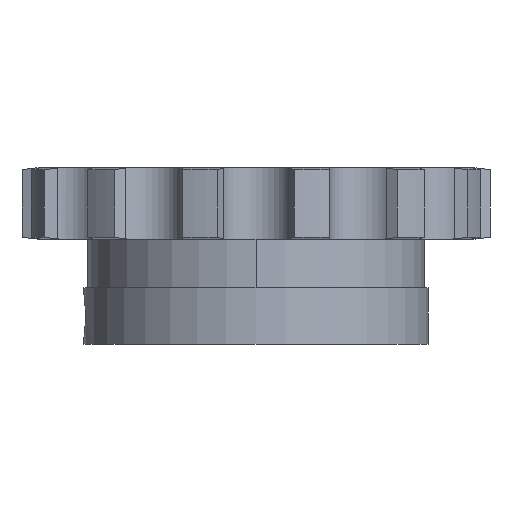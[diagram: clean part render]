
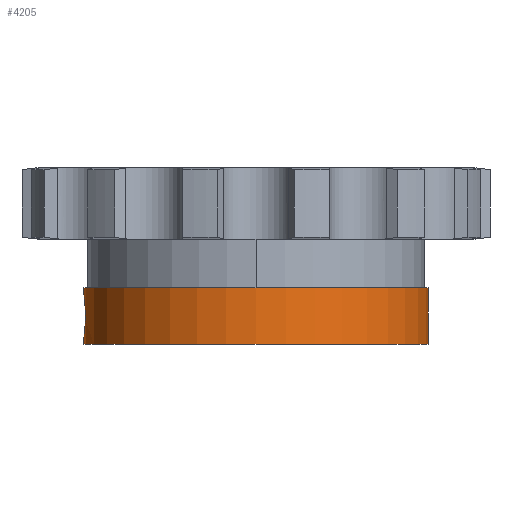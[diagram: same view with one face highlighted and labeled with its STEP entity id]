
A CAD part, front view. The second image highlights one B-rep face of the part: STEP entity #4205.
In plain terms, the highlighted cylindrical face has radius 39 mm (diameter 78 mm), a partial arc.
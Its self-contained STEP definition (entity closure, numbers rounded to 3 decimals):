
#1007=CARTESIAN_POINT('',(-39.,0.,
-20.5));
#1031=DIRECTION('',(0.,0.,1.));
#1032=VECTOR('',#1031,12.8);
#1033=CARTESIAN_POINT('',(39.,0.,-31.9));
#1034=LINE('',#1033,#1032);
#1164=CARTESIAN_POINT('',(-39.,0.,
-20.5));
#1165=CARTESIAN_POINT('',(-39.,-0.201,
-20.5));
#1166=CARTESIAN_POINT('',(-38.997,-0.632,
-20.525));
#1167=CARTESIAN_POINT('',(-38.981,-1.287,
-20.646));
#1168=CARTESIAN_POINT('',(-38.953,-1.949,
-20.863));
#1169=CARTESIAN_POINT('',(-38.917,-2.572,
-21.165));
#1170=CARTESIAN_POINT('',(-38.874,-3.146,
-21.546));
#1171=CARTESIAN_POINT('',(-38.829,-3.66,
-21.998));
#1172=CARTESIAN_POINT('',(-38.784,-4.106,
-22.511));
#1173=CARTESIAN_POINT('',(-38.743,-4.478,
-23.079));
#1174=CARTESIAN_POINT('',(-38.708,-4.769,
-23.691));
#1175=CARTESIAN_POINT('',(-38.682,-4.972,
-24.33));
#1176=CARTESIAN_POINT('',(-38.668,-5.078,
-24.939));
#1177=CARTESIAN_POINT('',(-38.665,-5.098,
-25.328));
#1178=CARTESIAN_POINT('',(-38.665,-5.098,
-25.5));
#1183=DIRECTION('',(0.,0.,1.));
#1184=VECTOR('',#1183,1.4);
#1185=CARTESIAN_POINT('',(-39.,0.,
-20.5));
#1186=LINE('',#1185,#1184);
#1190=CARTESIAN_POINT('',(0.,0.,-19.1));
#1191=DIRECTION('',(0.,0.,1.));
#1192=DIRECTION('',(-1.,0.,0.));
#1193=AXIS2_PLACEMENT_3D('',#1190,#1191,#1192);
#1198=DIRECTION('',(0.,0.,1.));
#1199=VECTOR('',#1198,1.4);
#1200=CARTESIAN_POINT('',(-39.,0.,-31.9));
#1201=LINE('',#1200,#1199);
#1205=CARTESIAN_POINT('',(-38.665,-5.098,
-25.5));
#1206=CARTESIAN_POINT('',(-38.665,-5.098,
-25.683));
#1207=CARTESIAN_POINT('',(-38.668,-5.076,
-26.083));
#1208=CARTESIAN_POINT('',(-38.683,-4.964,
-26.701));
#1209=CARTESIAN_POINT('',(-38.709,-4.758,
-27.336));
#1210=CARTESIAN_POINT('',(-38.744,-4.466,
-27.943));
#1211=CARTESIAN_POINT('',(-38.785,-4.092,
-28.507));
#1212=CARTESIAN_POINT('',(-38.83,-3.646,
-29.016));
#1213=CARTESIAN_POINT('',(-38.875,-3.133,
-29.464));
#1214=CARTESIAN_POINT('',(-38.917,-2.561,
-29.841));
#1215=CARTESIAN_POINT('',(-38.953,-1.94,
-30.141));
#1216=CARTESIAN_POINT('',(-38.981,-1.281,
-30.355));
#1217=CARTESIAN_POINT('',(-38.997,-0.629,
-30.475));
#1218=CARTESIAN_POINT('',(-39.,-0.2,
-30.5));
#1219=CARTESIAN_POINT('',(-39.,0.,
-30.5));
#1232=CARTESIAN_POINT('',(0.,0.,-31.9));
#1233=DIRECTION('',(0.,0.,-1.));
#1234=DIRECTION('',(1.,0.,0.));
#1235=AXIS2_PLACEMENT_3D('',#1232,#1233,#1234);
#2713=CARTESIAN_POINT('',(-39.,0.,-31.9));
#2714=CARTESIAN_POINT('',(39.,0.,-31.9));
#2715=VERTEX_POINT('',#2713);
#2716=VERTEX_POINT('',#2714);
#2858=VERTEX_POINT('',#1007);
#2861=VERTEX_POINT('',#1178);
#2863=VERTEX_POINT('',#1219);
#2873=CARTESIAN_POINT('',(39.,0.,-19.1));
#2874=CARTESIAN_POINT('',(-39.,0.,-19.1));
#2875=VERTEX_POINT('',#2873);
#2876=VERTEX_POINT('',#2874);
#4189=CARTESIAN_POINT('',(0.,0.,8.1));
#4190=DIRECTION('',(0.,0.,1.));
#4191=DIRECTION('',(1.,0.,0.));
#4192=AXIS2_PLACEMENT_3D('',#4189,#4190,#4191);
#4193=CYLINDRICAL_SURFACE('',#4192,39.);
#4194=ORIENTED_EDGE('',*,*,#4179,.F.);
#4195=ORIENTED_EDGE('',*,*,#3750,.T.);
#4196=ORIENTED_EDGE('',*,*,#3725,.T.);
#4197=ORIENTED_EDGE('',*,*,#3747,.F.);
#4199=ORIENTED_EDGE('',*,*,#4198,.T.);
#4200=ORIENTED_EDGE('',*,*,#3743,.T.);
#4202=ORIENTED_EDGE('',*,*,#4201,.F.);
#4203=EDGE_LOOP('',(#4194,#4195,#4196,#4197,#4199,#4200,#4202));
#4204=FACE_OUTER_BOUND('',#4203,.F.);
#4205=ADVANCED_FACE('',(#4204),#4193,.T.);
#1179=B_SPLINE_CURVE_WITH_KNOTS('',3,(#1164,#1165,#1166,#1167,#1168,#1169,#1170,
#1171,#1172,#1173,#1174,#1175,#1176,#1177,#1178),.UNSPECIFIED.,.F.,.F.,(4,1,1,1,
1,1,1,1,1,1,1,1,4),(0.,0.075,0.161,0.247,
0.332,0.418,0.504,0.589,
0.675,0.76,0.846,0.932,1.),
.UNSPECIFIED.);
#1194=CIRCLE('',#1193,39.);
#1220=B_SPLINE_CURVE_WITH_KNOTS('',3,(#1205,#1206,#1207,#1208,#1209,#1210,#1211,
#1212,#1213,#1214,#1215,#1216,#1217,#1218,#1219),.UNSPECIFIED.,.F.,.F.,(4,1,1,1,
1,1,1,1,1,1,1,1,4),(0.,0.073,0.158,0.243,
0.329,0.414,0.499,0.584,
0.669,0.755,0.84,0.925,1.),
.UNSPECIFIED.);
#1236=CIRCLE('',#1235,39.);
#3725=EDGE_CURVE('',#2876,#2875,#1194,.T.);
#3743=EDGE_CURVE('',#2715,#2863,#1201,.T.);
#3747=EDGE_CURVE('',#2716,#2875,#1034,.T.);
#3750=EDGE_CURVE('',#2858,#2876,#1186,.T.);
#4179=EDGE_CURVE('',#2858,#2861,#1179,.T.);
#4198=EDGE_CURVE('',#2716,#2715,#1236,.T.);
#4201=EDGE_CURVE('',#2861,#2863,#1220,.T.);
